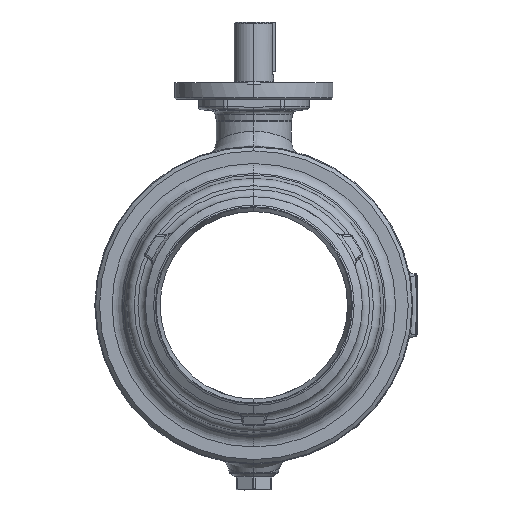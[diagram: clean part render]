
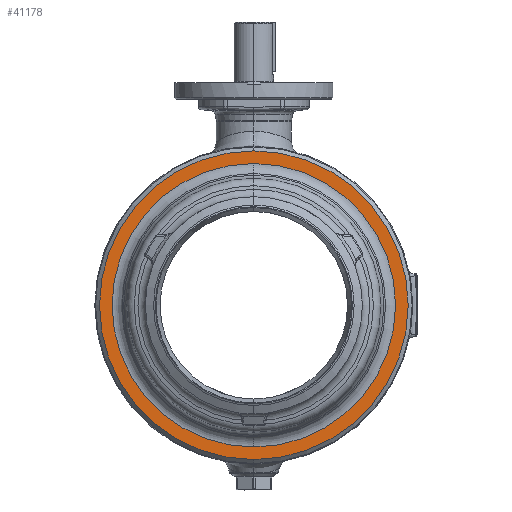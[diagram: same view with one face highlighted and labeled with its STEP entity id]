
A CAD part, left-side view. The second image highlights one B-rep face of the part: STEP entity #41178.
In plain terms, the highlighted planar face has unit normal (-1, 0, 0).
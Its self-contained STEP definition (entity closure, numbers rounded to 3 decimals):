
#1131=CARTESIAN_POINT('',(-197.,0.,0.));
#1132=DIRECTION('',(-1.,0.,0.));
#1133=DIRECTION('',(0.,0.,1.));
#1134=AXIS2_PLACEMENT_3D('',#1131,#1132,#1133);
#1136=CARTESIAN_POINT('',(-197.,0.,0.));
#1137=DIRECTION('',(-1.,0.,0.));
#1138=DIRECTION('',(0.,0.,-1.));
#1139=AXIS2_PLACEMENT_3D('',#1136,#1137,#1138);
#1141=CARTESIAN_POINT('',(-197.,0.,0.));
#1142=DIRECTION('',(1.,0.,0.));
#1143=DIRECTION('',(0.,0.,-1.));
#1144=AXIS2_PLACEMENT_3D('',#1141,#1142,#1143);
#1146=CARTESIAN_POINT('',(-197.,0.,0.));
#1147=DIRECTION('',(1.,0.,0.));
#1148=DIRECTION('',(0.,0.,1.));
#1149=AXIS2_PLACEMENT_3D('',#1146,#1147,#1148);
#39157=CARTESIAN_POINT('',(-197.,0.,-359.062));
#39158=CARTESIAN_POINT('',(-197.,0.,359.062));
#39159=VERTEX_POINT('',#39157);
#39160=VERTEX_POINT('',#39158);
#39342=CARTESIAN_POINT('',(-197.,0.,391.));
#39343=CARTESIAN_POINT('',(-197.,0.,-391.));
#39344=VERTEX_POINT('',#39342);
#39345=VERTEX_POINT('',#39343);
#41162=CARTESIAN_POINT('',(-197.,0.,0.));
#41163=DIRECTION('',(-1.,0.,0.));
#41164=DIRECTION('',(0.,0.,1.));
#41165=AXIS2_PLACEMENT_3D('',#41162,#41163,#41164);
#41166=PLANE('',#41165);
#41167=ORIENTED_EDGE('',*,*,#41152,.F.);
#41169=ORIENTED_EDGE('',*,*,#41168,.F.);
#41170=EDGE_LOOP('',(#41167,#41169));
#41171=FACE_OUTER_BOUND('',#41170,.F.);
#41173=ORIENTED_EDGE('',*,*,#41172,.F.);
#41175=ORIENTED_EDGE('',*,*,#41174,.F.);
#41176=EDGE_LOOP('',(#41173,#41175));
#41177=FACE_BOUND('',#41176,.F.);
#41178=ADVANCED_FACE('',(#41171,#41177),#41166,.T.);
#1135=CIRCLE('',#1134,391.);
#1140=CIRCLE('',#1139,391.);
#1145=CIRCLE('',#1144,359.062);
#1150=CIRCLE('',#1149,359.062);
#41152=EDGE_CURVE('',#39344,#39345,#1135,.T.);
#41168=EDGE_CURVE('',#39345,#39344,#1140,.T.);
#41172=EDGE_CURVE('',#39159,#39160,#1145,.T.);
#41174=EDGE_CURVE('',#39160,#39159,#1150,.T.);
